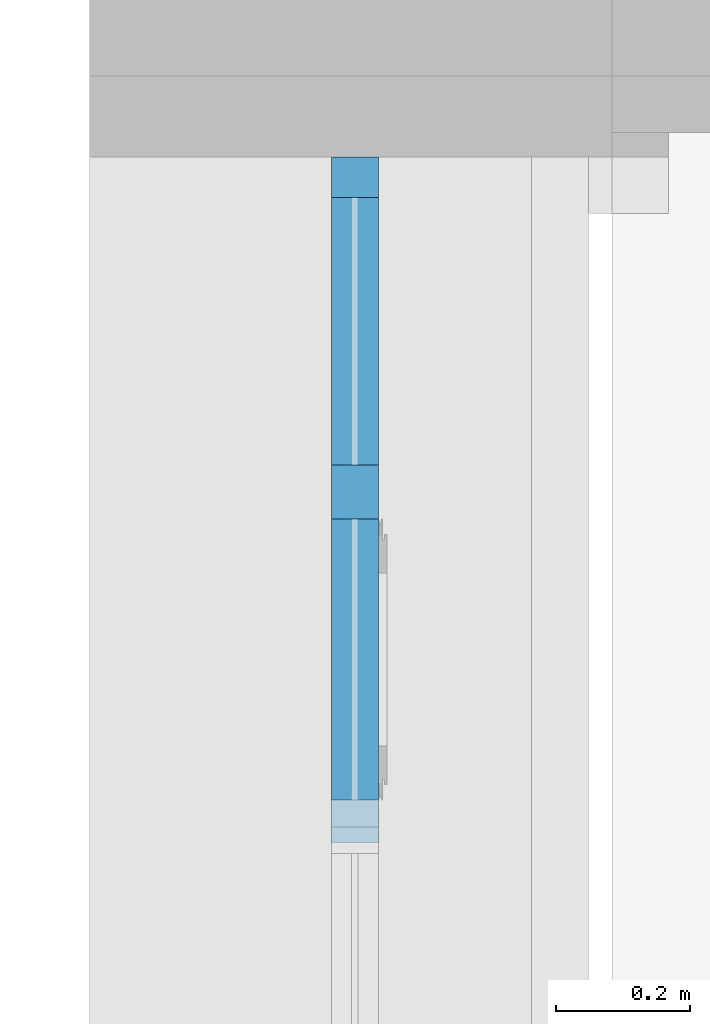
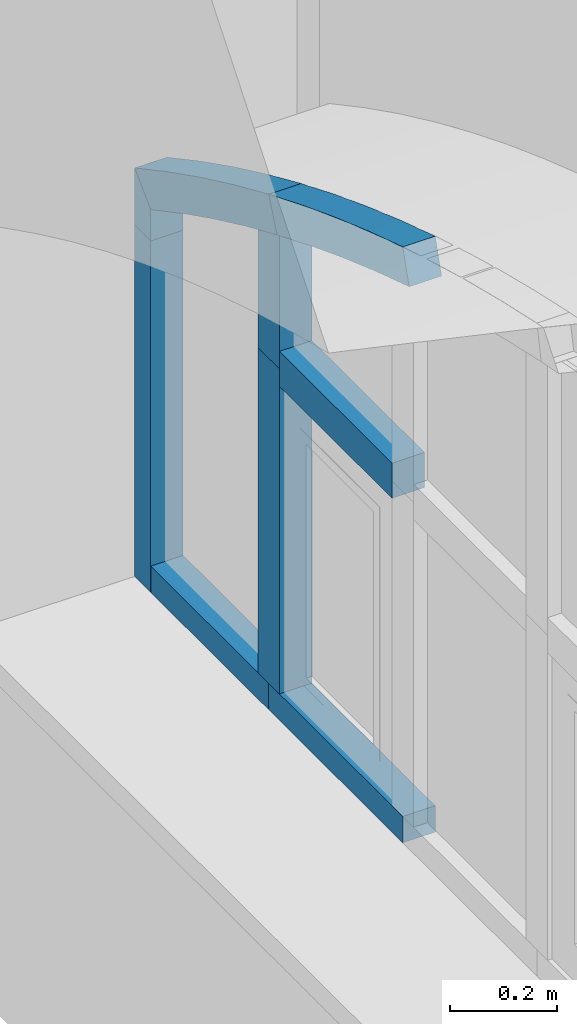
# One storey, part 20 of 32: 9 members, 1 element without a shape of its own.
"""IFC2X3 building model written with IfcOpenShell, lengths in millimetres."""

from ifc_helpers import new_model, entity, si_unit, converted_unit, derived_unit, direction, frame, frame_2d, origin, place, context, subcontext, project, spatial, polyline, circle_curve, parameter, trimmed, segment, composite_curve, rectangle, outline, extrude, source, transform, mapped, material, type_object, type_shapes, element, aggregate, save


model = new_model("IFC2X3")

# Units and contexts
model_context = context("Model", 3, precision=0.01, world=origin(), true_north=direction((6.123031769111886e-17, 1.0)))
body_context = subcontext(model_context, "Body", "Model", "MODEL_VIEW")
ifc_project = project(units=[si_unit("LENGTHUNIT", "METRE", prefix="MILLI"), si_unit("AREAUNIT", "SQUARE_METRE"), si_unit("VOLUMEUNIT", "CUBIC_METRE"), converted_unit("PLANEANGLEUNIT", "DEGREE", entity("IfcPlaneAngleMeasure", 0.017453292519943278), si_unit("PLANEANGLEUNIT", "RADIAN"), dimensions=[0, 0, 0, 0, 0, 0, 0]), si_unit("MASSUNIT", "GRAM", prefix="KILO"), derived_unit("MASSDENSITYUNIT", [(si_unit("MASSUNIT", "GRAM", prefix="KILO"), 1), (si_unit("LENGTHUNIT", "METRE"), -3)]), derived_unit("IONCONCENTRATIONUNIT", [(si_unit("MASSUNIT", "GRAM", prefix="KILO"), 1), (si_unit("LENGTHUNIT", "METRE"), -3)]), derived_unit("MOMENTOFINERTIAUNIT", [(si_unit("LENGTHUNIT", "METRE"), 4)]), si_unit("TIMEUNIT", "SECOND"), si_unit("FREQUENCYUNIT", "HERTZ"), si_unit("THERMODYNAMICTEMPERATUREUNIT", "DEGREE_CELSIUS"), derived_unit("THERMALTRANSMITTANCEUNIT", [(si_unit("MASSUNIT", "GRAM", prefix="KILO"), 1), (si_unit("THERMODYNAMICTEMPERATUREUNIT", "KELVIN"), -1), (si_unit("TIMEUNIT", "SECOND"), -3)]), derived_unit("THERMALCONDUCTANCEUNIT", [(si_unit("MASSUNIT", "GRAM", prefix="KILO"), 1), (si_unit("THERMODYNAMICTEMPERATUREUNIT", "KELVIN"), -1), (si_unit("TIMEUNIT", "SECOND"), -3), (si_unit("LENGTHUNIT", "METRE"), 1)]), derived_unit("VOLUMETRICFLOWRATEUNIT", [(si_unit("LENGTHUNIT", "METRE", prefix="DECI"), 3), (si_unit("TIMEUNIT", "SECOND"), -1)]), derived_unit("MASSFLOWRATEUNIT", [(si_unit("MASSUNIT", "GRAM", prefix="KILO"), 1), (si_unit("TIMEUNIT", "SECOND"), -1)]), derived_unit("ROTATIONALFREQUENCYUNIT", [(si_unit("TIMEUNIT", "SECOND"), -1)]), si_unit("ELECTRICCURRENTUNIT", "AMPERE"), si_unit("ELECTRICVOLTAGEUNIT", "VOLT"), si_unit("POWERUNIT", "WATT"), si_unit("FORCEUNIT", "NEWTON", prefix="KILO"), si_unit("ILLUMINANCEUNIT", "LUX"), si_unit("LUMINOUSFLUXUNIT", "LUMEN"), si_unit("LUMINOUSINTENSITYUNIT", "CANDELA"), si_unit("ENERGYUNIT", "JOULE"), derived_unit("USERDEFINED", [(si_unit("MASSUNIT", "GRAM", prefix="KILO"), -1), (si_unit("LENGTHUNIT", "METRE"), -2), (si_unit("TIMEUNIT", "SECOND"), 3), (si_unit("LUMINOUSFLUXUNIT", "LUMEN"), 1)]), derived_unit("USERDEFINED", [(si_unit("MASSUNIT", "GRAM", prefix="KILO"), 1), (si_unit("TIMEUNIT", "SECOND"), -3), (si_unit("LENGTHUNIT", "METRE"), 3), (si_unit("ELECTRICCURRENTUNIT", "AMPERE"), -2)]), derived_unit("SOUNDPOWERUNIT", [(si_unit("MASSUNIT", "GRAM", prefix="KILO"), 1), (si_unit("TIMEUNIT", "SECOND"), -3), (si_unit("LENGTHUNIT", "METRE"), 2)]), derived_unit("SOUNDPRESSUREUNIT", [(si_unit("MASSUNIT", "GRAM", prefix="KILO"), 1), (si_unit("LENGTHUNIT", "METRE"), -1), (si_unit("TIMEUNIT", "SECOND"), -2)]), derived_unit("LINEARVELOCITYUNIT", [(si_unit("LENGTHUNIT", "METRE"), 1), (si_unit("TIMEUNIT", "SECOND"), -1)]), si_unit("PRESSUREUNIT", "PASCAL"), derived_unit("USERDEFINED", [(si_unit("MASSUNIT", "GRAM", prefix="KILO"), 1), (si_unit("LENGTHUNIT", "METRE"), -2), (si_unit("TIMEUNIT", "SECOND"), -2)]), derived_unit("LINEARFORCEUNIT", [(si_unit("MASSUNIT", "GRAM", prefix="KILO"), 1), (si_unit("TIMEUNIT", "SECOND"), -2)]), derived_unit("PLANARFORCEUNIT", [(si_unit("MASSUNIT", "GRAM", prefix="KILO"), 1), (si_unit("LENGTHUNIT", "METRE"), -1), (si_unit("TIMEUNIT", "SECOND"), -2)]), derived_unit("SPECIFICHEATCAPACITYUNIT", [(si_unit("THERMODYNAMICTEMPERATUREUNIT", "KELVIN"), -1), (si_unit("LENGTHUNIT", "METRE"), 2), (si_unit("TIMEUNIT", "SECOND"), -2)]), derived_unit("HEATFLUXDENSITYUNIT", [(si_unit("MASSUNIT", "GRAM", prefix="KILO"), 1), (si_unit("TIMEUNIT", "SECOND"), -3)]), derived_unit("HEATINGVALUEUNIT", [(si_unit("LENGTHUNIT", "METRE"), 2), (si_unit("TIMEUNIT", "SECOND"), -2)]), derived_unit("VAPORPERMEABILITYUNIT", [(si_unit("LENGTHUNIT", "METRE"), -1), (si_unit("TIMEUNIT", "SECOND"), 1)]), derived_unit("DYNAMICVISCOSITYUNIT", [(si_unit("MASSUNIT", "GRAM", prefix="KILO"), 1), (si_unit("TIMEUNIT", "SECOND"), -1), (si_unit("LENGTHUNIT", "METRE"), -1)]), derived_unit("THERMALEXPANSIONCOEFFICIENTUNIT", [(si_unit("THERMODYNAMICTEMPERATUREUNIT", "KELVIN"), -1)]), derived_unit("MODULUSOFELASTICITYUNIT", [(si_unit("MASSUNIT", "GRAM", prefix="KILO"), 1), (si_unit("LENGTHUNIT", "METRE"), -1), (si_unit("TIMEUNIT", "SECOND"), -2)]), derived_unit("ISOTHERMALMOISTURECAPACITYUNIT", [(si_unit("MASSUNIT", "GRAM", prefix="KILO"), -1), (si_unit("LENGTHUNIT", "METRE"), 3)]), derived_unit("MOISTUREDIFFUSIVITYUNIT", [(si_unit("TIMEUNIT", "SECOND"), -1), (si_unit("LENGTHUNIT", "METRE"), 2)]), derived_unit("MASSPERLENGTHUNIT", [(si_unit("MASSUNIT", "GRAM", prefix="KILO"), 1), (si_unit("LENGTHUNIT", "METRE"), -1)]), derived_unit("THERMALRESISTANCEUNIT", [(si_unit("MASSUNIT", "GRAM", prefix="KILO"), -1), (si_unit("TIMEUNIT", "SECOND"), 3), (si_unit("THERMODYNAMICTEMPERATUREUNIT", "KELVIN"), 1)]), derived_unit("ACCELERATIONUNIT", [(si_unit("LENGTHUNIT", "METRE"), 1), (si_unit("TIMEUNIT", "SECOND"), -2)]), derived_unit("ANGULARVELOCITYUNIT", [(si_unit("TIMEUNIT", "SECOND"), -1), (si_unit("PLANEANGLEUNIT", "RADIAN"), 1)]), derived_unit("LINEARSTIFFNESSUNIT", [(si_unit("MASSUNIT", "GRAM", prefix="KILO"), 1), (si_unit("TIMEUNIT", "SECOND"), -2)]), derived_unit("WARPINGCONSTANTUNIT", [(si_unit("LENGTHUNIT", "METRE"), 6)]), derived_unit("LINEARMOMENTUNIT", [(si_unit("MASSUNIT", "GRAM", prefix="KILO"), 1), (si_unit("LENGTHUNIT", "METRE"), 1), (si_unit("TIMEUNIT", "SECOND"), -2)]), derived_unit("TORQUEUNIT", [(si_unit("MASSUNIT", "GRAM", prefix="KILO"), 1), (si_unit("LENGTHUNIT", "METRE"), 2), (si_unit("TIMEUNIT", "SECOND"), -2)])], contexts=[model_context])

# Site, building, storey
site_placement = place(None, origin())
site = spatial("IfcSite", under=ifc_project, at=site_placement, Name="Default", CompositionType="ELEMENT")
building_placement = place(site_placement, origin())
building = spatial("IfcBuilding", under=site, at=building_placement, Name="Eesti Rahvusraamatukogu hoone renoveerimise projekteerimistööd", CompositionType="ELEMENT")
storey_placement = place(building_placement, frame((0.0, 0.0, 4950.000000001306)))
storey = spatial("IfcBuildingStorey", under=building, at=storey_placement, Name="2. korrus", CompositionType="ELEMENT", Elevation=4950.000000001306)

# Curtain wall, members
curtain_wall_type = type_object("IfcCurtainWallType", Name="Curtain Wall:Ak-04", PredefinedType="NOTDEFINED")
curtain_wall_placement = place(storey_placement, frame((0.0, 0.0, -4950.000000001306)))
curtain_wall = element("IfcCurtainWall", 1, at=curtain_wall_placement, inside=storey, type_object=curtain_wall_type, Name="Curtain Wall:Ak-04", ObjectType="Curtain Wall:Ak-04")
ifc_material = material(Name="LUMION_dark steel window frames")
member_type_1 = type_object("IfcMemberType", Name="Rectangular Mullion:NEW 80x70mm", PredefinedType="MULLION", material=ifc_material)
shared_shape_1 = source(origin(), body_context, "Body", "SweptSolid", [
    extrude(rectangle(XDim=80.0, YDim=70.0, at=frame_2d((0.0, -3.552713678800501e-15), x_axis=(1.0, 0.0))), frame((0.0, 0.0, -420.0), z_axis=(0.0, 0.0, 1.0), x_axis=(-1.0, 0.0, 0.0)), (0.0, 0.0, 1.0), 419.999999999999),
])
type_shapes(member_type_1, [shared_shape_1])
member_1_placement = place(curtain_wall_placement, frame((-36383.999999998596, 46999.00000000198, 6550.000000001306), z_axis=(0.0, -1.0, 0.0), x_axis=(0.0, 0.0, 1.0)))
member_1 = element("IfcMember", 2, at=member_1_placement, type_object=member_type_1, material=ifc_material, Name="Rectangular Mullion:NEW 80x70mm", ObjectType="Rectangular Mullion:NEW 80x70mm", context=body_context, shape_type="MappedRepresentation", body=[
    mapped(shared_shape_1, transform((0.0, 0.0, 0.0), scale=1.0)),
])
member_type_2 = type_object("IfcMemberType", Name="Rectangular Mullion:NEW 60x70mm", PredefinedType="MULLION", material=ifc_material)
shared_shape_2 = source(origin(), body_context, "Body", "SweptSolid", [
    extrude(rectangle(XDim=60.0, YDim=70.0, at=frame_2d((0.0, 3.552713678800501e-15), x_axis=(1.0, 0.0))), frame((-30.0, 0.0, -500.0), z_axis=(0.0, 0.0, 1.0), x_axis=(-1.0, 0.0, 0.0)), (0.0, 0.0, 1.0), 499.999999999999),
])
type_shapes(member_type_2, [shared_shape_2])
member_2_placement = place(curtain_wall_placement, frame((-36383.999999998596, 47459.00000000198, 5750.000000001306), z_axis=(0.0, 1.0, 0.0), x_axis=(0.0, 0.0, -1.0)))
member_2 = element("IfcMember", 3, at=member_2_placement, type_object=member_type_2, material=ifc_material, Name="Rectangular Mullion:NEW 60x70mm", ObjectType="Rectangular Mullion:NEW 60x70mm", context=body_context, shape_type="MappedRepresentation", body=[
    mapped(shared_shape_2, transform((0.0, 0.0, 0.0), scale=1.0)),
])
member_type_3 = type_object("IfcMemberType", Name="Rectangular Mullion:NEW 60x70mm", PredefinedType="MULLION", material=ifc_material)
shared_shape_3 = source(origin(), body_context, "Body", "SweptSolid", [
    extrude(rectangle(XDim=60.0, YDim=70.0, at=frame_2d((0.0, 3.552713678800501e-15), x_axis=(1.0, 0.0))), frame((-30.0, 0.0, -440.0), z_axis=(0.0, 0.0, 1.0), x_axis=(-1.0, 0.0, 0.0)), (0.0, 0.0, 1.0), 439.9999999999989),
])
type_shapes(member_type_3, [shared_shape_3])
member_3_placement = place(curtain_wall_placement, frame((-36383.999999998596, 47899.00000000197, 5750.000000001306), z_axis=(0.0, 1.0, 0.0), x_axis=(0.0, 0.0, -1.0)))
member_3 = element("IfcMember", 4, at=member_3_placement, type_object=member_type_3, material=ifc_material, Name="Rectangular Mullion:NEW 60x70mm", ObjectType="Rectangular Mullion:NEW 60x70mm", context=body_context, shape_type="MappedRepresentation", body=[
    mapped(shared_shape_3, transform((0.0, 0.0, 0.0), scale=1.0)),
])
member_type_4 = type_object("IfcMemberType", Name="Rectangular Mullion:NEW 80x70mm", PredefinedType="MULLION", material=ifc_material)
shared_shape_4 = source(origin(), body_context, "Body", "SweptSolid", [
    extrude(rectangle(XDim=80.0, YDim=70.0, at=frame_2d((0.0, -3.552713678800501e-15), x_axis=(1.0, 0.0))), frame((0.0, 0.0, -740.0), z_axis=(0.0, 0.0, 1.0), x_axis=(-1.0, 0.0, 0.0)), (0.0, 0.0, 1.0), 740.0),
])
type_shapes(member_type_4, [shared_shape_4])
member_4_placement = place(curtain_wall_placement, frame((-36383.999999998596, 47459.00000000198, 5810.000000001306), z_axis=(0.0, 0.0, -1.0), x_axis=(0.0, -1.0, 0.0)))
member_4 = element("IfcMember", 5, at=member_4_placement, type_object=member_type_4, material=ifc_material, Name="Rectangular Mullion:NEW 80x70mm", ObjectType="Rectangular Mullion:NEW 80x70mm", context=body_context, shape_type="MappedRepresentation", body=[
    mapped(shared_shape_4, transform((0.0, 0.0, 0.0), scale=1.0)),
])
member_type_5 = type_object("IfcMemberType", Name="Rectangular Mullion:NEW 80x70mm", PredefinedType="MULLION", material=ifc_material)
shared_shape_5 = source(origin(), body_context, "Body", "SweptSolid", [
    extrude(outline(composite_curve([segment(polyline([(-174.3077299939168, -33.75438693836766), (128.95075172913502, -33.75438693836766)]), True, "CONTINUOUS"), segment(trimmed(circle_curve(frame_2d((-4754.083849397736, -2093.7543869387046), x_axis=(0.9547498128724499, 0.2974101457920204)), 5299.776119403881), [parameter(5.5712474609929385)], [parameter(5.674213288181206)], True, "PARAMETER"), True, "CONTINUOUS"), segment(trimmed(circle_curve(frame_2d((-4754.083849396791, -2093.7543869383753), x_axis=(0.9206661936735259, 0.39035081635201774)), 5299.7761194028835), [parameter(0.0)], [parameter(0.8390347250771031)], True, "PARAMETER"), True, "CONTINUOUS"), segment(polyline([(94.42385048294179, 46.245613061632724), (-174.3077299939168, 46.24561306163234)]), True, "CONTINUOUS"), segment(polyline([(-174.3077299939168, 46.24561306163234), (-174.3077299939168, -33.75438693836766)]), True, "CONTINUOUS")], self_intersect=False)), frame((6.245613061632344, -35.0, -174.3077299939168), z_axis=(0.0, 1.0, 0.0), x_axis=(0.0, 0.0, -1.0)), (0.0, 0.0, 1.0), 70.00000000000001),
])
type_shapes(member_type_5, [shared_shape_5])
member_5_placement = place(curtain_wall_placement, frame((-36383.999999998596, 47459.00000000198, 6550.000000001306), z_axis=(0.0, 0.0, -1.0), x_axis=(0.0, -1.0, 0.0)))
member_5 = element("IfcMember", 6, at=member_5_placement, type_object=member_type_5, material=ifc_material, Name="Rectangular Mullion:NEW 80x70mm", ObjectType="Rectangular Mullion:NEW 80x70mm", context=body_context, shape_type="MappedRepresentation", body=[
    mapped(shared_shape_5, transform((0.0, 0.0, 0.0), scale=1.0)),
])
member_type_6 = type_object("IfcMemberType", Name="Rectangular Mullion:NEW 60x70mm", PredefinedType="MULLION", material=ifc_material)
shared_shape_6 = source(origin(), body_context, "Body", "SweptSolid", [
    extrude(rectangle(XDim=60.0, YDim=70.0, at=frame_2d((0.0, -3.552713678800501e-15), x_axis=(1.0, 0.0))), frame((-30.0, 0.0, -800.0), z_axis=(0.0, 0.0, 1.0), x_axis=(-1.0, 0.0, 0.0)), (0.0, 0.0, 1.0), 800.0),
])
type_shapes(member_type_6, [shared_shape_6])
member_6_placement = place(curtain_wall_placement, frame((-36383.999999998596, 47959.00000000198, 6550.000000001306), z_axis=(0.0, 0.0, 1.0), x_axis=(0.0, 1.0, 0.0)))
member_6 = element("IfcMember", 7, at=member_6_placement, type_object=member_type_6, material=ifc_material, Name="Rectangular Mullion:NEW 60x70mm", ObjectType="Rectangular Mullion:NEW 60x70mm", context=body_context, shape_type="MappedRepresentation", body=[
    mapped(shared_shape_6, transform((0.0, 0.0, 0.0), scale=1.0)),
])
member_type_7 = type_object("IfcMemberType", Name="Rectangular Mullion:NEW 60x70mm", PredefinedType="MULLION", material=ifc_material)
shared_shape_7 = source(origin(), body_context, "Body", "SweptSolid", [
    extrude(outline(polyline([(-79.56449747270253, -30.0), (50.43550252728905, -30.0), (50.43550252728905, 30.0), (-21.306507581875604, 30.0), (-79.56449747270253, -30.0)])), frame((-30.0, -35.0, -79.56449747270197), z_axis=(0.0, 1.0, 0.0), x_axis=(0.0, 0.0, -1.0)), (0.0, 0.0, 1.0), 70.00000000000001),
])
type_shapes(member_type_7, [shared_shape_7])
member_7_placement = place(curtain_wall_placement, frame((-36383.999999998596, 47959.00000000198, 6680.000000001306), z_axis=(0.0, 0.0, 1.0), x_axis=(0.0, 1.0, 0.0)))
member_7 = element("IfcMember", 8, at=member_7_placement, type_object=member_type_7, material=ifc_material, Name="Rectangular Mullion:NEW 60x70mm", ObjectType="Rectangular Mullion:NEW 60x70mm", context=body_context, shape_type="MappedRepresentation", body=[
    mapped(shared_shape_7, transform((0.0, 0.0, 0.0), scale=1.0)),
])
member_type_8 = type_object("IfcMemberType", Name="Rectangular Mullion:NEW 80x70mm", PredefinedType="MULLION", material=ifc_material)
shared_shape_8 = source(origin(), body_context, "Body", "SweptSolid", [
    extrude(outline(composite_curve([segment(polyline([(-53.08199940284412, -263.97691053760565), (26.91800059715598, -263.97691053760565)]), True, "CONTINUOUS"), segment(trimmed(circle_curve(frame_2d((5326.694120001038, -263.97691053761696), x_axis=(-0.9951001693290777, 0.09887190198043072)), 5299.776119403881), [parameter(3.5622212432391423e-13)], [parameter(5.674213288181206)], True, "PARAMETER"), False, "CONTINUOUS"), segment(polyline([(52.886006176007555, 260.02203445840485), (-26.722007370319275, 267.9317866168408)]), True, "CONTINUOUS"), segment(trimmed(circle_curve(frame_2d((5326.694120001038, -263.97691053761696), x_axis=(-0.9951001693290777, 0.09887190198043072)), 5379.776119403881), [parameter(3.5622212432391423e-13)], [parameter(5.674213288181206)], True, "PARAMETER"), True, "CONTINUOUS")], self_intersect=False)), frame((-53.081999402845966, -35.0, -263.9769105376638), z_axis=(0.0, 1.0, 0.0), x_axis=(-0.9951001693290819, 0.0, 0.09887190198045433)), (0.0, 0.0, 1.0), 70.00000000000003),
])
type_shapes(member_type_8, [shared_shape_8])
member_8_placement = place(curtain_wall_placement, frame((-36383.999999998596, 46959.000000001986, 7106.564123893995), z_axis=(0.0, -0.9547498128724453, 0.2974101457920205), x_axis=(0.0, 0.2974101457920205, 0.9547498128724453)))
member_8 = element("IfcMember", 9, at=member_8_placement, type_object=member_type_8, material=ifc_material, Name="Rectangular Mullion:NEW 80x70mm", ObjectType="Rectangular Mullion:NEW 80x70mm", context=body_context, shape_type="MappedRepresentation", body=[
    mapped(shared_shape_8, transform((0.0, 0.0, 0.0), scale=1.0)),
])
member_type_9 = type_object("IfcMemberType", Name="Rectangular Mullion:NEW 80x70mm", PredefinedType="MULLION", material=ifc_material)
shared_shape_9 = source(origin(), body_context, "Body", "SweptSolid", [
    extrude(outline(composite_curve([segment(trimmed(circle_curve(frame_2d((5012.255803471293, 1821.4299836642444), x_axis=(-0.9214052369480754, -0.3886031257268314)), 5379.776119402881), [parameter(354.0757341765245)], [parameter(359.99999999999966)], True, "PARAMETER"), True, "CONTINUOUS"), segment(polyline([(55.30191344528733, -269.16783204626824), (129.01433240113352, -238.07958198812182)]), True, "CONTINUOUS"), segment(trimmed(circle_curve(frame_2d((5012.255803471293, 1821.4299836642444), x_axis=(-0.9214052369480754, -0.3886031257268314)), 5299.776119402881), [parameter(354.33940494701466)], [parameter(359.99999999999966)], True, "PARAMETER"), False, "CONTINUOUS"), segment(polyline([(-50.313741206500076, 253.62370701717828), (-134.0025046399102, 253.62370701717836)]), True, "CONTINUOUS")], self_intersect=False)), frame((-53.64398821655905, -35.0, -269.50314648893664), z_axis=(0.0, -1.0, 0.0), x_axis=(-0.9214052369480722, 0.0, 0.3886031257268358)), (0.0, 0.0, -1.0), 70.00000000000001),
])
type_shapes(member_type_9, [shared_shape_9])
member_9_placement = place(curtain_wall_placement, frame((-36383.999999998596, 47459.00000000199, 6923.201883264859), z_axis=(0.0, -0.920666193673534, 0.3903508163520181), x_axis=(0.0, 0.3903508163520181, 0.920666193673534)))
member_9 = element("IfcMember", 10, at=member_9_placement, type_object=member_type_9, material=ifc_material, Name="Rectangular Mullion:NEW 80x70mm", ObjectType="Rectangular Mullion:NEW 80x70mm", context=body_context, shape_type="MappedRepresentation", body=[
    mapped(shared_shape_9, transform((0.0, 0.0, 0.0), scale=1.0)),
])
aggregate(curtain_wall, [member_5, member_4, member_2, member_3, member_6, member_7, member_8, member_9, member_1])

save(model, "model.ifc")
